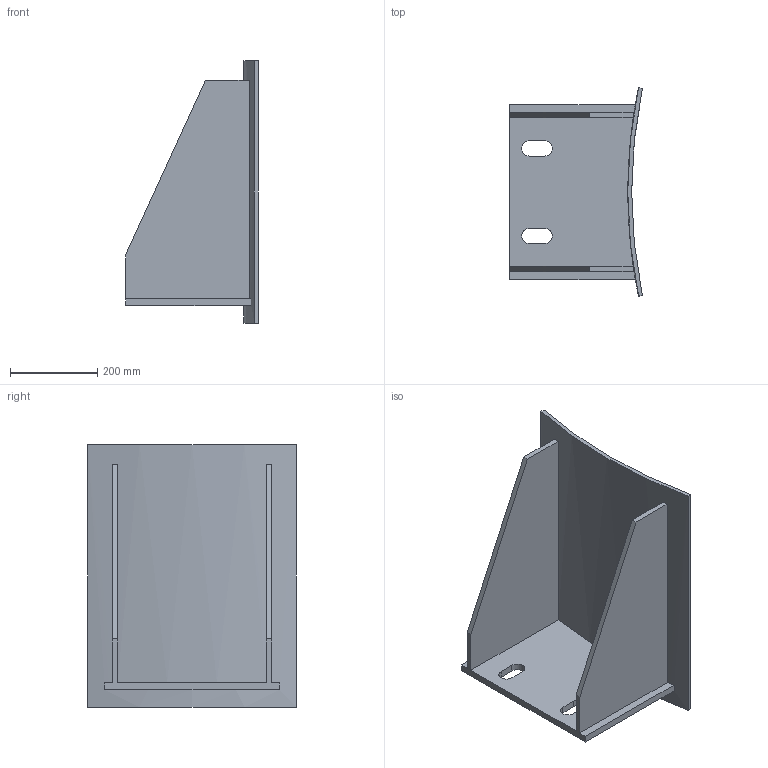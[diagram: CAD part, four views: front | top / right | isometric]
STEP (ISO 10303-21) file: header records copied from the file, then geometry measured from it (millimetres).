
FILE_DESCRIPTION(/* description */ (''),/* implementation_level */ '2;1');
FILE_NAME(/* name */ 'C:\Users\D\Documents\Inventor\HP\JPI\竪型容器用ラグサポート\軽荷重用ラグサポート Light-duty lug support\ld-lug-support-d2300.stp',/* time_stamp */ '2026-02-05T16:55:45+09:00',/* author */ ('D'),/* organization */ (''),/* preprocessor_version */ 'ST-DEVELOPER v18',/* originating_system */ 'Autodesk Inventor 2020',/* authorisation */ '');
FILE_SCHEMA (('AUTOMOTIVE_DESIGN { 1 0 10303 214 3 1 1 }'));
Length unit declared in the file: millimetre
Products named in the file (1): light-duty lug support
Bounding box: 303.38 x 476.63 x 600 mm (x, y, z)
Volume: 6790270.3 mm3; surface area: 1259442.7 mm2
Topology: 1 solids, 1 shells, 31 faces, 80 edges, 52 vertices
Faces by surface type: plane 25, cylinder 6
Entity records: 1001 total; most frequent: CARTESIAN_POINT 166, ORIENTED_EDGE 164, DIRECTION 162, EDGE_CURVE 82, LINE 66, VECTOR 66, VERTEX_POINT 52, AXIS2_PLACEMENT_3D 48
